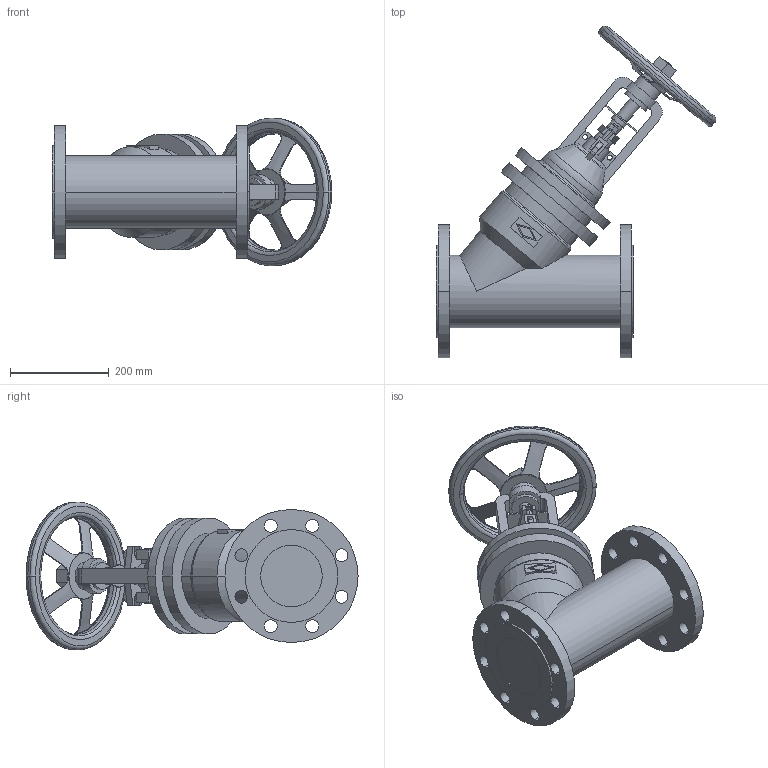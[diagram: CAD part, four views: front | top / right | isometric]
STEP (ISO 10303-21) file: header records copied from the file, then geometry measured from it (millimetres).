
FILE_DESCRIPTION(('OneSpaceDesigner STEP Export'),'2;1');
FILE_NAME('c000004399.stp','2010-05-07T 9:37:27',(''),(''),'OneSpace Designer STEP processor for AP214 (Solid Model)','OneSpace Modeling 15.50B 03-Nov-2007 (C) CoCreate Software GmbH','');
FILE_SCHEMA(('AUTOMOTIVE_DESIGN { 1 0 10303 214 1 1 1 1 }'));
Length unit declared in the file: millimetre
Products named in the file (1): 1
Bounding box: 567.24 x 673.55 x 300 mm (x, y, z)
Volume: 16337040.3 mm3; surface area: 860296.4 mm2
Topology: 1 solids, 1 shells, 341 faces, 933 edges, 609 vertices
Faces by surface type: cylinder 150, plane 145, torus 32, cone 14
Entity records: 13615 total; most frequent: CARTESIAN_POINT 2924, ORIENTED_EDGE 1842, DIRECTION 1402, EDGE_CURVE 921, VERTEX_POINT 603, AXIS2_PLACEMENT_3D 488, VECTOR 426, LINE 426
